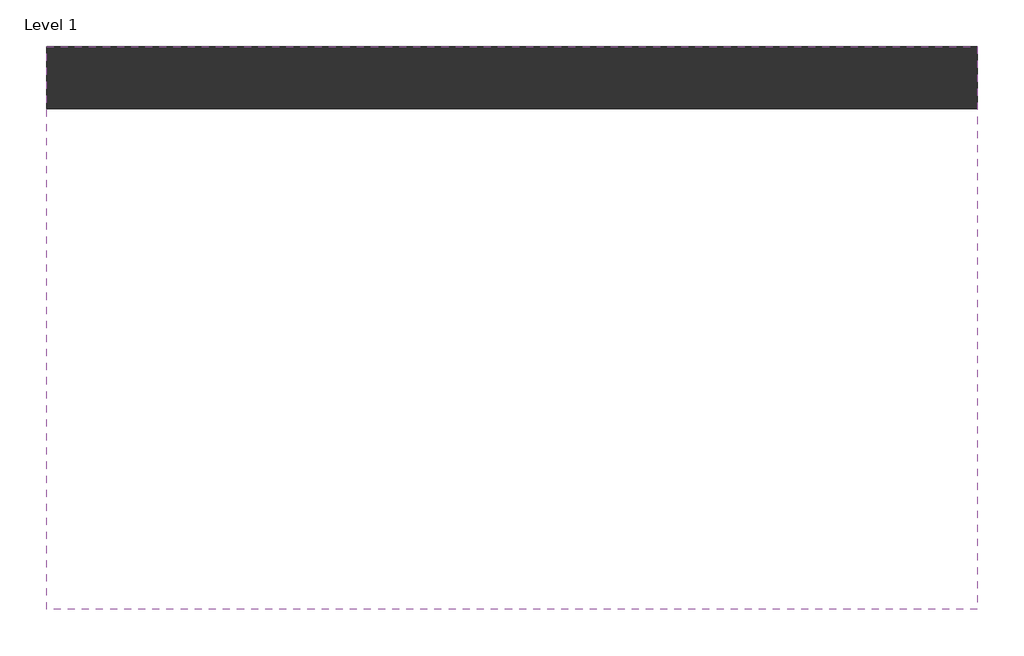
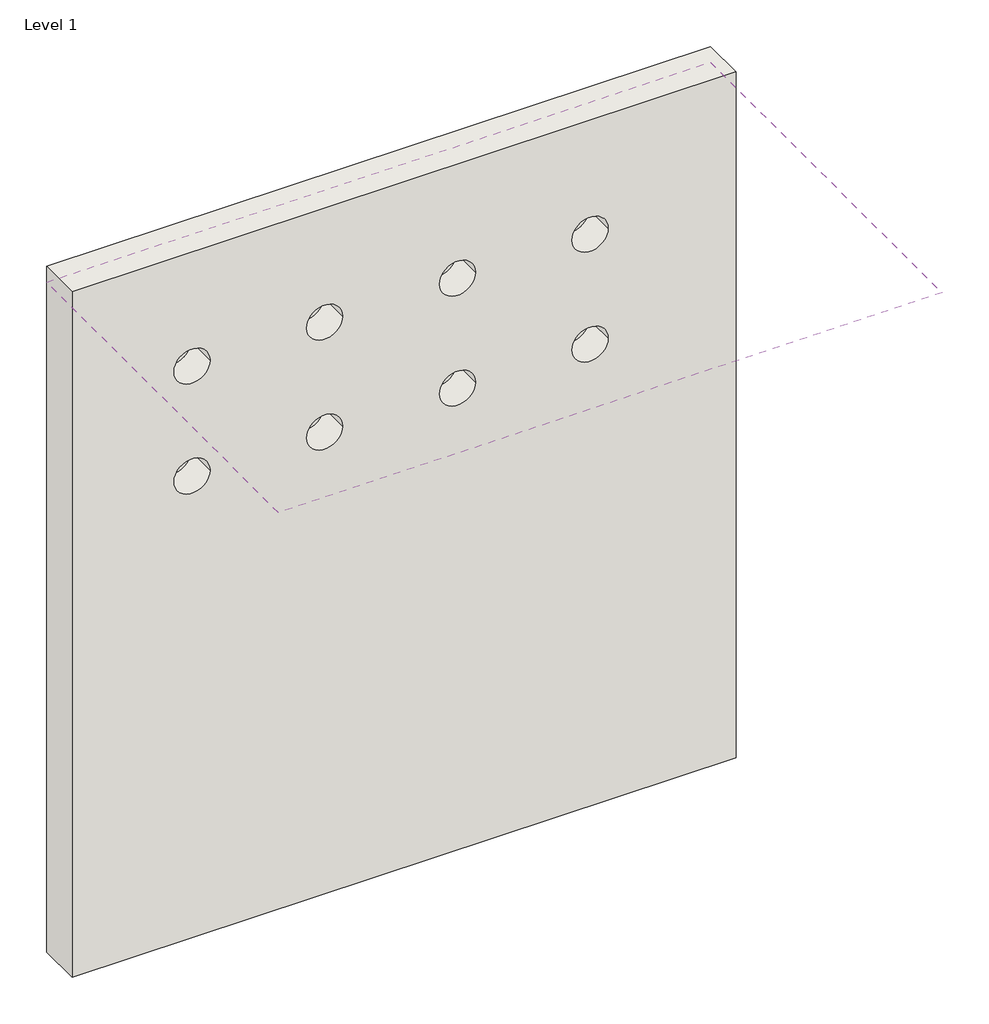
# One storey, incomplete: 1 covering, 1 wall.
"""IFC4 building model written with IfcOpenShell, lengths in millimetres."""

from ifc_helpers import new_model, si_unit, point, frame, frame_2d, origin, place, context, project, spatial, polyline, circle_curve, trimmed, segment, composite_curve, outline, extrude, element, save
from ifc_brep_helpers import plane_surface, revolved_surface, advanced_brep

model = new_model("IFC4")

# Units and contexts
model_context = context("Model", 3, world=origin())
ifc_project = project(units=[si_unit("LENGTHUNIT", "METRE", prefix="MILLI")], contexts=[model_context])

# Site, building, storey
site = spatial("IfcSite", under=ifc_project)
building = spatial("IfcBuilding", under=site)
storey = spatial("IfcBuildingStorey", under=building, Name="Level 1", Elevation=0.0)

# Covering
placement = place(None, origin())
element("IfcCovering", 1, ObjectType="2' x 4' ACT System", at=placement, inside=storey, context=model_context, shape_type="SweptSolid", body=[
    extrude(outline(polyline([(1833.1973575, 2115.5766815), (4119.1973575, 2115.5766815), (4119.1973575, 732.2741036), (1833.1973575, 732.2741036), (1833.1973575, 2115.5766815)]), holes=[composite_curve([segment(trimmed(circle_curve(frame_2d((3617.7306576, 1178.1626751)), 62.0), [point((3679.7306576, 1178.1626751))], [point((3555.7306576, 1178.1626751))], True, "CARTESIAN"), True, "CONTINUOUS"), segment(trimmed(circle_curve(frame_2d((3617.7306576, 1178.1626751)), 62.0), [point((3555.7306576, 1178.1626751))], [point((3679.7306576, 1178.1626751))], True, "CARTESIAN"), True, "CONTINUOUS")], self_intersect=False), composite_curve([segment(trimmed(circle_curve(frame_2d((3617.7306576, 1578.1626751)), 62.0), [point((3679.7306576, 1578.1626751))], [point((3555.7306576, 1578.1626751))], True, "CARTESIAN"), True, "CONTINUOUS"), segment(trimmed(circle_curve(frame_2d((3617.7306576, 1578.1626751)), 62.0), [point((3555.7306576, 1578.1626751))], [point((3679.7306576, 1578.1626751))], True, "CARTESIAN"), True, "CONTINUOUS")], self_intersect=False), composite_curve([segment(trimmed(circle_curve(frame_2d((3160.5306576, 1578.1626751)), 62.0), [point((3222.5306576, 1578.1626751))], [point((3098.5306576, 1578.1626751))], True, "CARTESIAN"), True, "CONTINUOUS"), segment(trimmed(circle_curve(frame_2d((3160.5306576, 1578.1626751)), 62.0), [point((3098.5306576, 1578.1626751))], [point((3222.5306576, 1578.1626751))], True, "CARTESIAN"), True, "CONTINUOUS")], self_intersect=False), composite_curve([segment(trimmed(circle_curve(frame_2d((2703.3306576, 1578.1626751)), 62.0), [point((2765.3306576, 1578.1626751))], [point((2641.3306576, 1578.1626751))], True, "CARTESIAN"), True, "CONTINUOUS"), segment(trimmed(circle_curve(frame_2d((2703.3306576, 1578.1626751)), 62.0), [point((2641.3306576, 1578.1626751))], [point((2765.3306576, 1578.1626751))], True, "CARTESIAN"), True, "CONTINUOUS")], self_intersect=False), composite_curve([segment(trimmed(circle_curve(frame_2d((3160.5306576, 1178.1626751)), 62.0), [point((3222.5306576, 1178.1626751))], [point((3098.5306576, 1178.1626751))], True, "CARTESIAN"), True, "CONTINUOUS"), segment(trimmed(circle_curve(frame_2d((3160.5306576, 1178.1626751)), 62.0), [point((3098.5306576, 1178.1626751))], [point((3222.5306576, 1178.1626751))], True, "CARTESIAN"), True, "CONTINUOUS")], self_intersect=False), composite_curve([segment(trimmed(circle_curve(frame_2d((2703.3306576, 1178.1626751)), 62.0), [point((2765.3306576, 1178.1626751))], [point((2641.3306576, 1178.1626751))], True, "CARTESIAN"), True, "CONTINUOUS"), segment(trimmed(circle_curve(frame_2d((2703.3306576, 1178.1626751)), 62.0), [point((2641.3306576, 1178.1626751))], [point((2765.3306576, 1178.1626751))], True, "CARTESIAN"), True, "CONTINUOUS")], self_intersect=False), composite_curve([segment(trimmed(circle_curve(frame_2d((2246.1306576, 1578.1626751)), 62.0), [point((2308.1306576, 1578.1626751))], [point((2184.1306576, 1578.1626751))], True, "CARTESIAN"), True, "CONTINUOUS"), segment(trimmed(circle_curve(frame_2d((2246.1306576, 1578.1626751)), 62.0), [point((2184.1306576, 1578.1626751))], [point((2308.1306576, 1578.1626751))], True, "CARTESIAN"), True, "CONTINUOUS")], self_intersect=False), composite_curve([segment(trimmed(circle_curve(frame_2d((2246.1306576, 1178.1626751)), 62.0), [point((2308.1306576, 1178.1626751))], [point((2184.1306576, 1178.1626751))], True, "CARTESIAN"), True, "CONTINUOUS"), segment(trimmed(circle_curve(frame_2d((2246.1306576, 1178.1626751)), 62.0), [point((2184.1306576, 1178.1626751))], [point((2308.1306576, 1178.1626751))], True, "CARTESIAN"), True, "CONTINUOUS")], self_intersect=False)]), frame((0.0, 0.0, 2438.4), z_axis=(0.0, 0.0, 1.0), x_axis=(1.0, 0.0, 0.0)), (0.0, 0.0, 1.0), 57.15),
])

# Wall
element("IfcWall", 2, ObjectType="Exterior - 6\" Generic", at=placement, inside=storey, context=model_context, shape_type="AdvancedBrep", body=[
    advanced_brep(
    [(1833.1973575, 1963.1766815, 0.0), (4119.1973575, 1963.1766815, 0.0), (4119.1973575, 1963.1766815, 2495.55), (1833.1973575, 1963.1766815, 2495.55), (2184.1306576, 1963.1766815, 1680.4804373), (2308.1306576, 1963.1766815, 1680.4804373), (2641.3306576, 1963.1766815, 1680.4804373), (2765.3306576, 1963.1766815, 1680.4804373), (3555.7306576, 1963.1766815, 1680.4804373), (3679.7306576, 1963.1766815, 1680.4804373), (3098.5306576, 1963.1766815, 1680.4804373), (3222.5306576, 1963.1766815, 1680.4804373), (3098.5306576, 1963.1766815, 2080.4804373), (3222.5306576, 1963.1766815, 2080.4804373), (3555.7306576, 1963.1766815, 2080.4804373), (3679.7306576, 1963.1766815, 2080.4804373), (2641.3306576, 1963.1766815, 2080.4804373), (2765.3306576, 1963.1766815, 2080.4804373), (2184.1306576, 1963.1766815, 2080.4804373), (2308.1306576, 1963.1766815, 2080.4804373), (4119.1973575, 2115.5766815, 0.0), (1833.1973575, 2115.5766815, 0.0), (1833.1973575, 2115.5766815, 2495.55), (4119.1973575, 2115.5766815, 2495.55), (2308.1306576, 2076.9344486, 1680.4804373), (2184.1306576, 2076.9344486, 1680.4804373), (2765.3306576, 2076.9344486, 1680.4804373), (2641.3306576, 2076.9344486, 1680.4804373), (3679.7306576, 2076.9344486, 1680.4804373), (3555.7306576, 2076.9344486, 1680.4804373), (3222.5306576, 2076.9344486, 1680.4804373), (3098.5306576, 2076.9344486, 1680.4804373), (3222.5306576, 2076.9344486, 2080.4804373), (3098.5306576, 2076.9344486, 2080.4804373), (3679.7306576, 2076.9344486, 2080.4804373), (3555.7306576, 2076.9344486, 2080.4804373), (2765.3306576, 2076.9344486, 2080.4804373), (2641.3306576, 2076.9344486, 2080.4804373), (2308.1306576, 2076.9344486, 2080.4804373), (2184.1306576, 2076.9344486, 2080.4804373)],
    [
        (0, 1),
        (1, 2),
        (2, 3),
        (3, 0),
        (4, 5, circle_curve(frame((2246.1306576, 1963.1766815, 1680.4804373), z_axis=(0.0, 1.0, 0.0), x_axis=(-1.0, 0.0, 0.0)), 62.0)),
        (5, 4, circle_curve(frame((2246.1306576, 1963.1766815, 1680.4804373), z_axis=(0.0, 1.0, 0.0), x_axis=(-1.0, 0.0, 0.0)), 62.0)),
        (6, 7, circle_curve(frame((2703.3306576, 1963.1766815, 1680.4804373), z_axis=(0.0, 1.0, 0.0), x_axis=(-1.0, 0.0, 0.0)), 62.0)),
        (7, 6, circle_curve(frame((2703.3306576, 1963.1766815, 1680.4804373), z_axis=(0.0, 1.0, 0.0), x_axis=(-1.0, 0.0, 0.0)), 62.0)),
        (8, 9, circle_curve(frame((3617.7306576, 1963.1766815, 1680.4804373), z_axis=(0.0, 1.0, 0.0), x_axis=(-1.0, 0.0, 0.0)), 62.0)),
        (9, 8, circle_curve(frame((3617.7306576, 1963.1766815, 1680.4804373), z_axis=(0.0, 1.0, 0.0), x_axis=(-1.0, 0.0, 0.0)), 62.0)),
        (10, 11, circle_curve(frame((3160.5306576, 1963.1766815, 1680.4804373), z_axis=(0.0, 1.0, 0.0), x_axis=(-1.0, 0.0, 0.0)), 62.0)),
        (11, 10, circle_curve(frame((3160.5306576, 1963.1766815, 1680.4804373), z_axis=(0.0, 1.0, 0.0), x_axis=(-1.0, 0.0, 0.0)), 62.0)),
        (12, 13, circle_curve(frame((3160.5306576, 1963.1766815, 2080.4804373), z_axis=(0.0, 1.0, 0.0), x_axis=(-1.0, 0.0, 0.0)), 62.0)),
        (13, 12, circle_curve(frame((3160.5306576, 1963.1766815, 2080.4804373), z_axis=(0.0, 1.0, 0.0), x_axis=(-1.0, 0.0, 0.0)), 62.0)),
        (14, 15, circle_curve(frame((3617.7306576, 1963.1766815, 2080.4804373), z_axis=(0.0, 1.0, 0.0), x_axis=(-1.0, 0.0, 0.0)), 62.0)),
        (15, 14, circle_curve(frame((3617.7306576, 1963.1766815, 2080.4804373), z_axis=(0.0, 1.0, 0.0), x_axis=(-1.0, 0.0, 0.0)), 62.0)),
        (16, 17, circle_curve(frame((2703.3306576, 1963.1766815, 2080.4804373), z_axis=(0.0, 1.0, 0.0), x_axis=(-1.0, 0.0, 0.0)), 62.0)),
        (17, 16, circle_curve(frame((2703.3306576, 1963.1766815, 2080.4804373), z_axis=(0.0, 1.0, 0.0), x_axis=(-1.0, 0.0, 0.0)), 62.0)),
        (18, 19, circle_curve(frame((2246.1306576, 1963.1766815, 2080.4804373), z_axis=(0.0, 1.0, 0.0), x_axis=(-1.0, 0.0, 0.0)), 62.0)),
        (19, 18, circle_curve(frame((2246.1306576, 1963.1766815, 2080.4804373), z_axis=(0.0, 1.0, 0.0), x_axis=(-1.0, 0.0, 0.0)), 62.0)),
        (20, 21),
        (21, 22),
        (22, 23),
        (23, 20),
        (0, 21),
        (20, 1),
        (23, 2),
        (22, 3),
        (24, 25, circle_curve(frame((2246.1306576, 2076.9344486, 1680.4804373), z_axis=(0.0, -1.0, 0.0), x_axis=(-1.0, 0.0, 0.0)), 62.0)),
        (25, 24, circle_curve(frame((2246.1306576, 2076.9344486, 1680.4804373), z_axis=(0.0, -1.0, 0.0), x_axis=(-1.0, 0.0, 0.0)), 62.0)),
        (24, 5),
        (4, 25),
        (26, 27, circle_curve(frame((2703.3306576, 2076.9344486, 1680.4804373), z_axis=(0.0, -1.0, 0.0), x_axis=(-1.0, 0.0, 0.0)), 62.0)),
        (27, 26, circle_curve(frame((2703.3306576, 2076.9344486, 1680.4804373), z_axis=(0.0, -1.0, 0.0), x_axis=(-1.0, 0.0, 0.0)), 62.0)),
        (26, 7),
        (6, 27),
        (28, 29, circle_curve(frame((3617.7306576, 2076.9344486, 1680.4804373), z_axis=(0.0, -1.0, 0.0), x_axis=(-1.0, 0.0, 0.0)), 62.0)),
        (29, 28, circle_curve(frame((3617.7306576, 2076.9344486, 1680.4804373), z_axis=(0.0, -1.0, 0.0), x_axis=(-1.0, 0.0, 0.0)), 62.0)),
        (28, 9),
        (8, 29),
        (30, 31, circle_curve(frame((3160.5306576, 2076.9344486, 1680.4804373), z_axis=(0.0, -1.0, 0.0), x_axis=(-1.0, 0.0, 0.0)), 62.0)),
        (31, 30, circle_curve(frame((3160.5306576, 2076.9344486, 1680.4804373), z_axis=(0.0, -1.0, 0.0), x_axis=(-1.0, 0.0, 0.0)), 62.0)),
        (30, 11),
        (10, 31),
        (32, 33, circle_curve(frame((3160.5306576, 2076.9344486, 2080.4804373), z_axis=(0.0, -1.0, 0.0), x_axis=(-1.0, 0.0, 0.0)), 62.0)),
        (33, 32, circle_curve(frame((3160.5306576, 2076.9344486, 2080.4804373), z_axis=(0.0, -1.0, 0.0), x_axis=(-1.0, 0.0, 0.0)), 62.0)),
        (32, 13),
        (12, 33),
        (34, 35, circle_curve(frame((3617.7306576, 2076.9344486, 2080.4804373), z_axis=(0.0, -1.0, 0.0), x_axis=(-1.0, 0.0, 0.0)), 62.0)),
        (35, 34, circle_curve(frame((3617.7306576, 2076.9344486, 2080.4804373), z_axis=(0.0, -1.0, 0.0), x_axis=(-1.0, 0.0, 0.0)), 62.0)),
        (34, 15),
        (14, 35),
        (36, 37, circle_curve(frame((2703.3306576, 2076.9344486, 2080.4804373), z_axis=(0.0, -1.0, 0.0), x_axis=(-1.0, 0.0, 0.0)), 62.0)),
        (37, 36, circle_curve(frame((2703.3306576, 2076.9344486, 2080.4804373), z_axis=(0.0, -1.0, 0.0), x_axis=(-1.0, 0.0, 0.0)), 62.0)),
        (36, 17),
        (16, 37),
        (38, 39, circle_curve(frame((2246.1306576, 2076.9344486, 2080.4804373), z_axis=(0.0, -1.0, 0.0), x_axis=(-1.0, 0.0, 0.0)), 62.0)),
        (39, 38, circle_curve(frame((2246.1306576, 2076.9344486, 2080.4804373), z_axis=(0.0, -1.0, 0.0), x_axis=(-1.0, 0.0, 0.0)), 62.0)),
        (38, 19),
        (18, 39),
    ],
    [
        plane_surface(frame((1833.1973575, 1963.1766815, 0.0), z_axis=(0.0, -1.0, 0.0), x_axis=(1.0, 0.0, 0.0))),
        plane_surface(frame((1833.1973575, 2115.5766815, 0.0), z_axis=(0.0, 1.0, 0.0), x_axis=(-1.0, 0.0, 0.0))),
        plane_surface(frame((1833.1973575, 1963.1766815, 0.0), z_axis=(0.0, 0.0, -1.0), x_axis=(0.0, 1.0, 0.0))),
        plane_surface(frame((4119.1973575, 1963.1766815, 0.0), z_axis=(1.0, 0.0, 0.0), x_axis=(0.0, 1.0, 0.0))),
        plane_surface(frame((4119.1973575, 1963.1766815, 2495.55), z_axis=(0.0, 0.0, 1.0), x_axis=(0.0, 1.0, 0.0))),
        plane_surface(frame((1833.1973575, 1963.1766815, 2495.55), z_axis=(-1.0, 0.0, 0.0), x_axis=(0.0, 1.0, 0.0))),
        plane_surface(frame((2184.1306576, 2076.9344486, 1680.4804373), z_axis=(0.0, -1.0, 0.0), x_axis=(0.0, 0.0, 1.0))),
        revolved_surface(polyline([(2184.1306576, 1963.1766815, 1680.4804373), (2184.1306576, 2076.9344486, 1680.4804373)]), (2246.1306576, 2076.9344486, 1680.4804373), (0.0, -1.0, 0.0)),
        plane_surface(frame((2641.3306576, 2076.9344486, 1680.4804373), z_axis=(0.0, -1.0, 0.0), x_axis=(0.0, 0.0, 1.0))),
        revolved_surface(polyline([(2641.3306576, 1963.1766815, 1680.4804373), (2641.3306576, 2076.9344486, 1680.4804373)]), (2703.3306576, 2076.9344486, 1680.4804373), (0.0, -1.0, 0.0)),
        plane_surface(frame((3555.7306576, 2076.9344486, 1680.4804373), z_axis=(0.0, -1.0, 0.0), x_axis=(0.0, 0.0, 1.0))),
        revolved_surface(polyline([(3555.7306576, 1963.1766815, 1680.4804373), (3555.7306576, 2076.9344486, 1680.4804373)]), (3617.7306576, 2076.9344486, 1680.4804373), (0.0, -1.0, 0.0)),
        plane_surface(frame((3098.5306576, 2076.9344486, 1680.4804373), z_axis=(0.0, -1.0, 0.0), x_axis=(0.0, 0.0, 1.0))),
        revolved_surface(polyline([(3098.5306576, 1963.1766815, 1680.4804373), (3098.5306576, 2076.9344486, 1680.4804373)]), (3160.5306576, 2076.9344486, 1680.4804373), (0.0, -1.0, 0.0)),
        plane_surface(frame((3098.5306576, 2076.9344486, 2080.4804373), z_axis=(0.0, -1.0, 0.0), x_axis=(0.0, 0.0, 1.0))),
        revolved_surface(polyline([(3098.5306576, 1963.1766815, 2080.4804373), (3098.5306576, 2076.9344486, 2080.4804373)]), (3160.5306576, 2076.9344486, 2080.4804373), (0.0, -1.0, 0.0)),
        plane_surface(frame((3555.7306576, 2076.9344486, 2080.4804373), z_axis=(0.0, -1.0, 0.0), x_axis=(0.0, 0.0, 1.0))),
        revolved_surface(polyline([(3555.7306576, 1963.1766815, 2080.4804373), (3555.7306576, 2076.9344486, 2080.4804373)]), (3617.7306576, 2076.9344486, 2080.4804373), (0.0, -1.0, 0.0)),
        plane_surface(frame((2641.3306576, 2076.9344486, 2080.4804373), z_axis=(0.0, -1.0, 0.0), x_axis=(0.0, 0.0, 1.0))),
        revolved_surface(polyline([(2641.3306576, 1963.1766815, 2080.4804373), (2641.3306576, 2076.9344486, 2080.4804373)]), (2703.3306576, 2076.9344486, 2080.4804373), (0.0, -1.0, 0.0)),
        plane_surface(frame((2184.1306576, 2076.9344486, 2080.4804373), z_axis=(0.0, -1.0, 0.0), x_axis=(0.0, 0.0, 1.0))),
        revolved_surface(polyline([(2184.1306576, 1963.1766815, 2080.4804373), (2184.1306576, 2076.9344486, 2080.4804373)]), (2246.1306576, 2076.9344486, 2080.4804373), (0.0, -1.0, 0.0)),
    ],
    [
        (0, [[1, 2, 3, 4], [5, 6], [7, 8], [9, 10], [11, 12], [13, 14], [15, 16], [17, 18], [19, 20]]),
        (1, [[21, 22, 23, 24]]),
        (2, [[-1, 25, -21, 26]]),
        (3, [[-2, -26, -24, 27]]),
        (4, [[-3, -27, -23, 28]]),
        (5, [[-4, -28, -22, -25]]),
        (6, [[29, 30]]),
        (7, [[-29, 31, -5, 32]]),
        (7, [[-30, -32, -6, -31]]),
        (8, [[33, 34]]),
        (9, [[-33, 35, -7, 36]]),
        (9, [[-34, -36, -8, -35]]),
        (10, [[37, 38]]),
        (11, [[-37, 39, -9, 40]]),
        (11, [[-38, -40, -10, -39]]),
        (12, [[41, 42]]),
        (13, [[-41, 43, -11, 44]]),
        (13, [[-42, -44, -12, -43]]),
        (14, [[45, 46]]),
        (15, [[-45, 47, -13, 48]]),
        (15, [[-46, -48, -14, -47]]),
        (16, [[49, 50]]),
        (17, [[-49, 51, -15, 52]]),
        (17, [[-50, -52, -16, -51]]),
        (18, [[53, 54]]),
        (19, [[-53, 55, -17, 56]]),
        (19, [[-54, -56, -18, -55]]),
        (20, [[57, 58]]),
        (21, [[-57, 59, -19, 60]]),
        (21, [[-58, -60, -20, -59]]),
    ],
),
])

save(model, "model.ifc")
